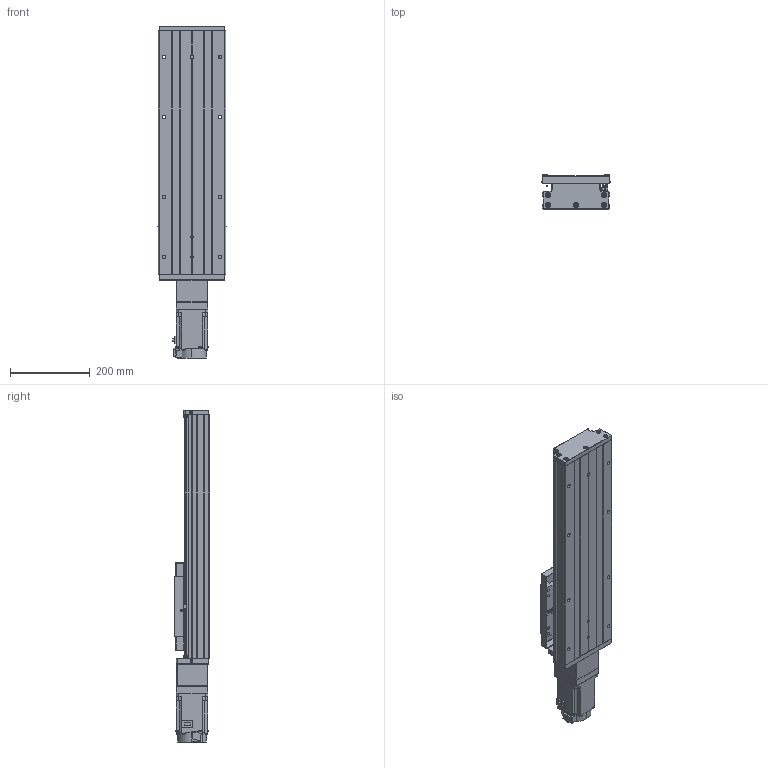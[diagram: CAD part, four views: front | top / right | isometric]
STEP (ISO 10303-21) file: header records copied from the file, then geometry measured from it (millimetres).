
FILE_DESCRIPTION (( 'STEP AP203' ), '1' );
FILE_NAME ('GTH17-350-BC-M75-C4.step', '2023-06-30T11:21:21', ( '微软用户' ), ( '微软中国' ), 'SwSTEP 2.0', 'SolidWorks 2020', '' );
FILE_SCHEMA (( 'CONFIG_CONTROL_DESIGN' ));
Length unit declared in the file: millimetre
Products named in the file (20): GTH17-004; GBT77-2000 M3×3; GTH17-013; GTH17-005; GBT 70.1-M6¡Á20_M6¡Á20; GTH17-027-1; GB1155-6X6; GTH17-031; HG-KN73J-S100; CTHA60-017; GBT 70.2-M3¡Á5_M3¡Á6; GTH17-350-BC-M75-C4; EE_SX911P_R; す晦芛蹟隊 M3℅5; GTH17-001_350; CTHA60-016; GBT 70.3-M3℅8; GTH17-002_GTH17-002; GBT 70.1-M3℅5; GTH17-006-2_M75
Assembly tree (57 placements, depth 2):
  GTH17-350-BC-M75-C4
    GTH17-001_350
    GTH17-002_GTH17-002
    GTH17-004
    GTH17-005
    GB1155-6X6  x2
    CTHA60-017  x3
    EE_SX911P_R  x3
    CTHA60-016  x2
    GBT 70.1-M3℅5  x6
    GBT77-2000 M3×3  x6
    GBT 70.1-M6¡Á20_M6¡Á20  x10
    GTH17-031
    GBT 70.2-M3¡Á5_M3¡Á6  x8
    す晦芛蹟隊 M3℅5  x6
    GBT 70.3-M3℅8  x2
    GTH17-006-2_M75
    GTH17-013
    GTH17-027-1
    HG-KN73J-S100
Bounding box: 171 x 87 x 831.2 mm (x, y, z)
Volume: 6331960.6 mm3; surface area: 875319.8 mm2
Topology: 60 solids, 60 shells, 2394 faces, 5725 edges, 3547 vertices
Faces by surface type: plane 1301, cylinder 646, cone 287, torus 120, sphere 20, bspline 20
Entity records: 44529 total; most frequent: CARTESIAN_POINT 10327, DIRECTION 6417, ORIENTED_EDGE 6366, EDGE_CURVE 3183, AXIS2_PLACEMENT_3D 2171, VECTOR 2075, LINE 2075, VERTEX_POINT 2015
